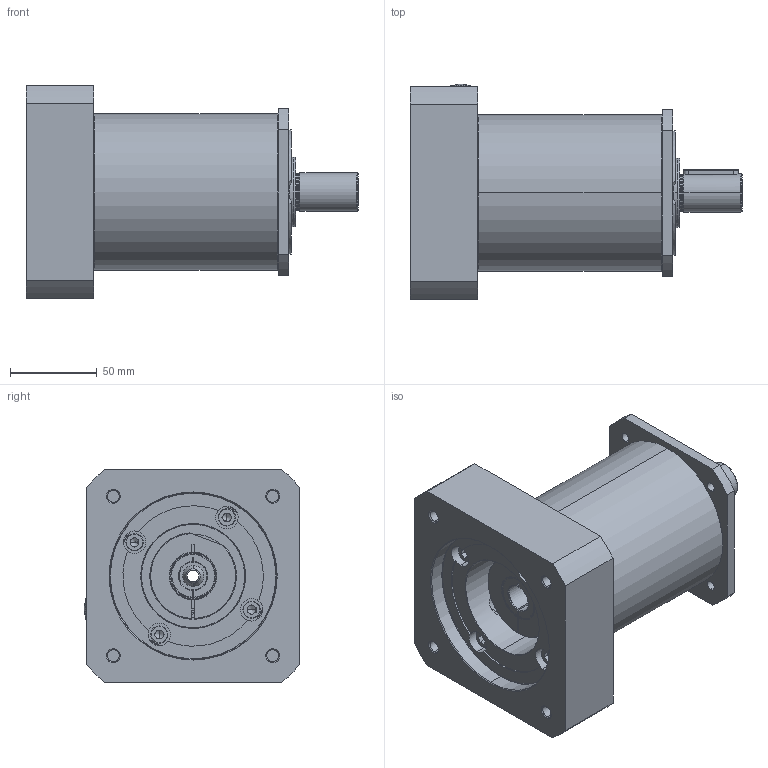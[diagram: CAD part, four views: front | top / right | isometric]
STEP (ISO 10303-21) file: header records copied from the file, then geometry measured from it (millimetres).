
FILE_DESCRIPTION (( 'STEP AP214' ), '1' );
FILE_NAME ('AL-034-RRR-FFF-MMM-S-LL-XXX-CXX-0000.STEP', '2019-10-23T15:38:57', ( '' ), ( '' ), 'SwSTEP 2.0', 'SolidWorks 2019', '' );
FILE_SCHEMA (( 'AUTOMOTIVE_DESIGN' ));
Length unit declared in the file: millimetre
Products named in the file (1): AL-034-RRR-FFF-MMM-S-LL-XXX-CXX-0000
Bounding box: 191.5 x 124.27 x 123 mm (x, y, z)
Surface area: 114283.6 mm2 (no closed solid volume)
Topology: 0 solids, 81 shells, 373 faces, 2209 edges, 1871 vertices
Faces by surface type: plane 187, cylinder 94, cone 61, torus 28, sphere 2, bspline 1
Entity records: 32460 total; most frequent: CARTESIAN_POINT 12817, ORIENTED_EDGE 2830, DIRECTION 2684, EDGE_CURVE 2193, VERTEX_POINT 1871, VECTOR 1112, LINE 1112, AXIS2_PLACEMENT_3D 786
